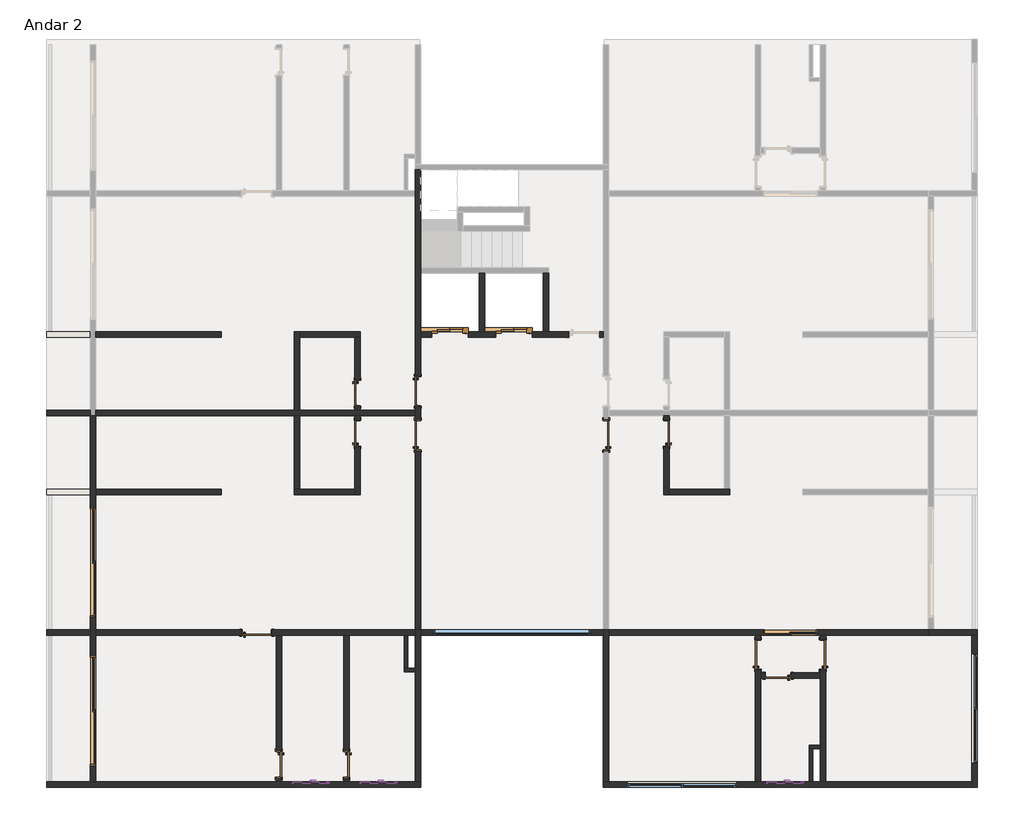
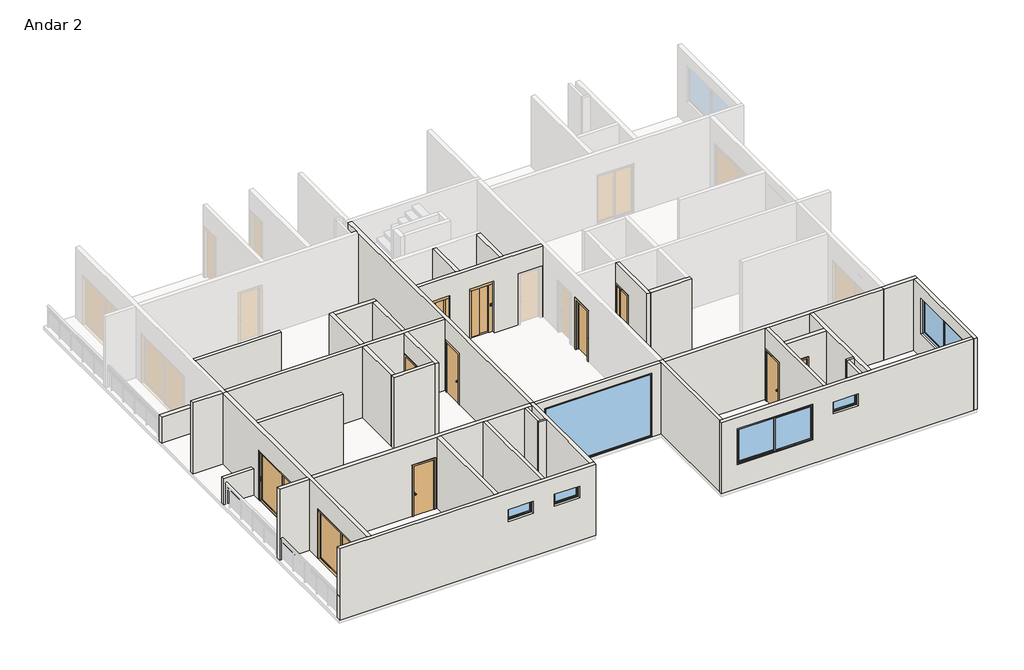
# One storey, part 1 of 3: 38 walls, 17 doors, 6 windows.
"""IFC4 building model written with IfcOpenShell, lengths in millimetres."""

from ifc_helpers import new_model, si_unit, frame, origin, place, context, project, spatial, polyline, outline, extrude, faceted_brep, transform, mapped, element, save
from components import door_ffffc2e2, door_3_00m_x_2_10m_5baaadc1, door_interior_single_flush_panel_wood_70m_89b55d44, door_interior_single_flush_panel_wood_70m_eb1ec4d9, door_interior_single_flush_panel_wood_80m_pcf_cb5077a7, door_interior_single_flush_panel_wood_80m_pcf_192ded05, p2_1_50m_x_2_10m_936728f7, window_d153a765, j1_3_00m_x_1_50m_28497eee, m_fixo_j3_4_30m_x_2_70m_9528c059

model = new_model("IFC4")

# Units and contexts
model_context = context("Model", 3, world=origin())
ifc_project = project(units=[si_unit("LENGTHUNIT", "METRE", prefix="MILLI")], contexts=[model_context])

# Site, building, storey
site = spatial("IfcSite", under=ifc_project)
building = spatial("IfcBuilding", under=site)
storey = spatial("IfcBuildingStorey", under=building, Name="Andar 2", Elevation=6150.0)

# Doors
placement = place(None, origin())
door_shape = door_ffffc2e2(model_context)
element("IfcDoor", 1, ObjectType="Porta do elevador : Porta do elevador", at=placement, inside=storey, context=model_context, shape_type="MappedRepresentation", body=[
    mapped(door_shape, transform((16900.0, 14650.0, 6150.0), x_axis=(1.0, 0.0, 0.0), y_axis=(0.0, 1.0, 0.0), z_axis=(0.0, 0.0, 1.0))),
])
element("IfcDoor", 2, ObjectType="Porta do elevador : Porta do elevador", at=placement, inside=storey, context=model_context, shape_type="MappedRepresentation", body=[
    mapped(door_shape, transform((18650.0, 14650.0, 6150.0), x_axis=(1.0, 0.0, 0.0), y_axis=(0.0, 1.0, 0.0), z_axis=(0.0, 0.0, 1.0))),
])
door_3_00m_x_2_10m_shape = door_3_00m_x_2_10m_5baaadc1(model_context)
element("IfcDoor", 3, ObjectType="Porta de Correr - 2 Folhas - ComPainel 1 : 3.00m x 2.10m", at=placement, inside=storey, context=model_context, shape_type="MappedRepresentation", body=[
    mapped(door_3_00m_x_2_10m_shape, transform((7275.0, 8395.7939229, 6150.0), x_axis=(0.0, 1.0, 0.0), y_axis=(-1.0, 0.0, 0.0), z_axis=(0.0, 0.0, 1.0))),
])
element("IfcDoor", 4, ObjectType="Porta de Correr - 2 Folhas - ComPainel 1 : 3.00m x 2.10m", at=placement, inside=storey, context=model_context, shape_type="MappedRepresentation", body=[
    mapped(door_3_00m_x_2_10m_shape, transform((7275.0, 4335.7939229, 6150.0), x_axis=(0.0, 1.0, 0.0), y_axis=(-1.0, 0.0, 0.0), z_axis=(0.0, 0.0, 1.0))),
])
door_interior_single_flush_panel_wood_70m_shape = door_interior_single_flush_panel_wood_70m_89b55d44(model_context)
element("IfcDoor", 5, ObjectType="Door-Interior-Single-Flush_Panel-Wood : .70m", at=placement, inside=storey, context=model_context, shape_type="MappedRepresentation", body=[
    mapped(door_interior_single_flush_panel_wood_70m_shape, transform((14496.825, 11949.6, 6150.0), x_axis=(0.0, 1.0, 0.0), y_axis=(-1.0, 0.0, 0.0), z_axis=(0.0, 0.0, 1.0))),
])
element("IfcDoor", 6, ObjectType="Door-Interior-Single-Flush_Panel-Wood : .70m", at=placement, inside=storey, context=model_context, shape_type="MappedRepresentation", body=[
    mapped(door_interior_single_flush_panel_wood_70m_shape, transform((14203.175, 2900.4, 6150.0), x_axis=(0.0, -1.0, 0.0), y_axis=(1.0, 0.0, 0.0), z_axis=(0.0, 0.0, 1.0))),
])
element("IfcDoor", 7, ObjectType="Door-Interior-Single-Flush_Panel-Wood : .70m", at=placement, inside=storey, context=model_context, shape_type="MappedRepresentation", body=[
    mapped(door_interior_single_flush_panel_wood_70m_shape, transform((26000.4, 5321.425, 6150.0), x_axis=(-1.0, 0.0, 0.0), y_axis=(0.0, -1.0, 0.0), z_axis=(0.0, 0.0, 1.0))),
])
element("IfcDoor", 8, ObjectType="Door-Interior-Single-Flush_Panel-Wood : .70m", at=placement, inside=storey, context=model_context, shape_type="MappedRepresentation", body=[
    mapped(door_interior_single_flush_panel_wood_70m_shape, transform((12353.175, 2900.4, 6150.0), x_axis=(0.0, -1.0, 0.0), y_axis=(1.0, 0.0, 0.0), z_axis=(0.0, 0.0, 1.0))),
])
door_interior_single_flush_panel_wood_70m_2_shape = door_interior_single_flush_panel_wood_70m_eb1ec4d9(model_context)
element("IfcDoor", 9, ObjectType="Door-Interior-Single-Flush_Panel-Wood : .70m", at=placement, inside=storey, context=model_context, shape_type="MappedRepresentation", body=[
    mapped(door_interior_single_flush_panel_wood_70m_2_shape, transform((14496.825, 13050.4, 6150.0), x_axis=(0.0, -1.0, 0.0), y_axis=(1.0, 0.0, 0.0), z_axis=(0.0, 0.0, 1.0))),
])
element("IfcDoor", 10, ObjectType="Door-Interior-Single-Flush_Panel-Wood : .70m", at=placement, inside=storey, context=model_context, shape_type="MappedRepresentation", body=[
    mapped(door_interior_single_flush_panel_wood_70m_2_shape, transform((22953.175, 11949.6, 6150.0), x_axis=(0.0, 1.0, 0.0), y_axis=(-1.0, 0.0, 0.0), z_axis=(0.0, 0.0, 1.0))),
])
door_interior_single_flush_panel_wood_80m_pcf_shape = door_interior_single_flush_panel_wood_80m_pcf_cb5077a7(model_context)
element("IfcDoor", 11, ObjectType="Door-Interior-Single-Flush_Panel-Wood : .80m", at=placement, inside=storey, context=model_context, shape_type="MappedRepresentation", body=[
    mapped(door_interior_single_flush_panel_wood_80m_pcf_shape, transform((11749.6, 6496.825, 6150.0), x_axis=(1.0, 0.0, 0.0), y_axis=(0.0, 1.0, 0.0), z_axis=(0.0, 0.0, 1.0))),
])
element("IfcDoor", 12, ObjectType="Door-Interior-Single-Flush_Panel-Wood : .80m", at=placement, inside=storey, context=model_context, shape_type="MappedRepresentation", body=[
    mapped(door_interior_single_flush_panel_wood_80m_pcf_shape, transform((27228.175, 5899.6, 6150.0), x_axis=(0.0, 1.0, 0.0), y_axis=(-1.0, 0.0, 0.0), z_axis=(0.0, 0.0, 1.0))),
])
door_interior_single_flush_panel_wood_80m_pcf_2_shape = door_interior_single_flush_panel_wood_80m_pcf_192ded05(model_context)
element("IfcDoor", 13, ObjectType="Door-Interior-Single-Flush_Panel-Wood : .80m", at=placement, inside=storey, context=model_context, shape_type="MappedRepresentation", body=[
    mapped(door_interior_single_flush_panel_wood_80m_pcf_2_shape, transform((25446.825, 5899.6, 6150.0), x_axis=(0.0, 1.0, 0.0), y_axis=(-1.0, 0.0, 0.0), z_axis=(0.0, 0.0, 1.0))),
])
element("IfcDoor", 14, ObjectType="Door-Interior-Single-Flush_Panel-Wood : .80m - PCF", at=placement, inside=storey, context=model_context, shape_type="MappedRepresentation", body=[
    mapped(door_interior_single_flush_panel_wood_80m_pcf_2_shape, transform((16146.825, 11899.6, 6150.0), x_axis=(0.0, 1.0, 0.0), y_axis=(-1.0, 0.0, 0.0), z_axis=(0.0, 0.0, 1.0))),
])
element("IfcDoor", 15, ObjectType="Door-Interior-Single-Flush_Panel-Wood : .80m - PCF", at=placement, inside=storey, context=model_context, shape_type="MappedRepresentation", body=[
    mapped(door_interior_single_flush_panel_wood_80m_pcf_shape, transform((16146.825, 13100.4, 6150.0), x_axis=(0.0, -1.0, 0.0), y_axis=(1.0, 0.0, 0.0), z_axis=(0.0, 0.0, 1.0))),
])
element("IfcDoor", 16, ObjectType="Door-Interior-Single-Flush_Panel-Wood : .80m - PCF", at=placement, inside=storey, context=model_context, shape_type="MappedRepresentation", body=[
    mapped(door_interior_single_flush_panel_wood_80m_pcf_shape, transform((21303.175, 11899.6, 6150.0), x_axis=(0.0, 1.0, 0.0), y_axis=(-1.0, 0.0, 0.0), z_axis=(0.0, 0.0, 1.0))),
])
p2_1_50m_x_2_10m_shape = p2_1_50m_x_2_10m_936728f7(model_context)
element("IfcDoor", 17, ObjectType="Porta de Correr - 2 Folhas - ComPainel 1 : P2 - 1.50m x 2.10m", at=placement, inside=storey, context=model_context, shape_type="MappedRepresentation", body=[
    mapped(p2_1_50m_x_2_10m_shape, transform((26308.2939229, 6500.0, 6150.0), x_axis=(1.0, 0.0, 0.0), y_axis=(0.0, 1.0, 0.0), z_axis=(0.0, 0.0, 1.0))),
])

# Walls
element("IfcWall", 18, ObjectType="M_Parede Normal - 10cm - Interna", at=placement, inside=storey, context=model_context, shape_type="Brep", body=[
    faceted_brep([(27150.0, 3425.0, 6150.0), (26850.0, 3425.0, 6150.0), (26850.0, 3425.0, 9150.0), (27150.0, 3425.0, 9150.0), (27150.0, 3325.0, 6150.0), (27150.0, 3325.0, 9150.0), (26950.0, 3325.0, 9150.0), (26850.0, 3325.0, 9150.0), (26850.0, 3325.0, 6150.0), (26950.0, 3325.0, 6150.0)], [[[0, 1, 2, 3]], [[4, 5, 6, 7, 8, 9]], [[1, 0, 4, 9, 8]], [[3, 2, 7, 6, 5]], [[2, 1, 8, 7]], [[0, 3, 5, 4]]]),
])
element("IfcWall", 19, ObjectType="M_Parede Normal - 10cm - Interna", at=placement, inside=storey, context=model_context, shape_type="SweptSolid", body=[
    extrude(outline(polyline([(26850.0, 2425.0), (26850.0, 3325.0), (26950.0, 3325.0), (26950.0, 2425.0), (26850.0, 2425.0)])), frame((0.0, 0.0, 6150.0), z_axis=(0.0, 0.0, 1.0), x_axis=(1.0, 0.0, 0.0)), (0.0, 0.0, 1.0), 3000.0),
])
element("IfcWall", 20, ObjectType="M_Parede Normal - 10cm - Interna", at=placement, inside=storey, context=model_context, shape_type="Brep", body=[
    faceted_brep([(16075.0, 5525.0, 6150.0), (15875.0, 5525.0, 6150.0), (15775.0, 5525.0, 6150.0), (15775.0, 5525.0, 9150.0), (15875.0, 5525.0, 9150.0), (16075.0, 5525.0, 9150.0), (16075.0, 5425.0, 6150.0), (16075.0, 5425.0, 9150.0), (15775.0, 5425.0, 9150.0), (15775.0, 5425.0, 6150.0)], [[[0, 1, 2, 3, 4, 5]], [[6, 7, 8, 9]], [[2, 1, 0, 6, 9]], [[5, 4, 3, 8, 7]], [[3, 2, 9, 8]], [[0, 5, 7, 6]]]),
])
element("IfcWall", 21, ObjectType="M_Parede Normal - 10cm - Interna", at=placement, inside=storey, context=model_context, shape_type="SweptSolid", body=[
    extrude(outline(polyline([(15875.0, 6425.0), (15875.0, 5525.0), (15775.0, 5525.0), (15775.0, 6425.0), (15875.0, 6425.0)])), frame((0.0, 0.0, 6150.0), z_axis=(0.0, 0.0, 1.0), x_axis=(1.0, 0.0, 0.0)), (0.0, 0.0, 1.0), 3000.0),
])
element("IfcWall", 22, ObjectType="M_Parede Normal - 15cm - Externa", at=placement, inside=storey, context=model_context, shape_type="SweptSolid", body=[
    extrude(outline(polyline([(7200.0, 14575.0), (6000.0, 14575.0), (6000.0, 14725.0), (7200.0, 14725.0), (7200.0, 14575.0)])), frame((0.0, 0.0, 6150.0), z_axis=(0.0, 0.0, 1.0), x_axis=(1.0, 0.0, 0.0)), (0.0, 0.0, 1.0), 1100.0),
])
element("IfcWall", 23, ObjectType="M_Parede Normal - 15cm - Externa", at=placement, inside=storey, context=model_context, shape_type="Brep", body=[
    faceted_brep([(16225.0, 2425.0, 6150.0), (16225.0, 6425.0, 6150.0), (16225.0, 6575.0, 6150.0), (16225.0, 6575.0, 9150.0), (16225.0, 6425.0, 9150.0), (16225.0, 2425.0, 9150.0), (16075.0, 2425.0, 6150.0), (16075.0, 2425.0, 9150.0), (16075.0, 5425.0, 9150.0), (16075.0, 5525.0, 9150.0), (16075.0, 6425.0, 9150.0), (16075.0, 6575.0, 9150.0), (16075.0, 6575.0, 6150.0), (16075.0, 6425.0, 6150.0), (16075.0, 5525.0, 6150.0), (16075.0, 5425.0, 6150.0)], [[[0, 1, 2, 3, 4, 5]], [[6, 7, 8, 9, 10, 11, 12, 13, 14, 15]], [[2, 1, 0, 6, 15, 14, 13, 12]], [[5, 4, 3, 11, 10, 9, 8, 7]], [[0, 5, 7, 6]], [[3, 2, 12, 11]]]),
])
element("IfcWall", 24, ObjectType="M_Parede Normal - 15cm - Externa", at=placement, inside=storey, context=model_context, shape_type="Brep", body=[
    faceted_brep([(6000.0, 2275.0, 6150.0), (16225.0, 2275.0, 6150.0), (16225.0, 2275.0, 9150.0), (6000.0, 2275.0, 9150.0), (13725.0, 2275.0, 7950.0), (12725.0, 2275.0, 7950.0), (12725.0, 2275.0, 8450.0), (13725.0, 2275.0, 8450.0), (15575.0, 2275.0, 7950.0), (14575.0, 2275.0, 7950.0), (14575.0, 2275.0, 8450.0), (15575.0, 2275.0, 8450.0), (6000.0, 2425.0, 6150.0), (6000.0, 2425.0, 9150.0), (7200.0, 2425.0, 9150.0), (7350.0, 2425.0, 9150.0), (12275.0, 2425.0, 9150.0), (12425.0, 2425.0, 9150.0), (14125.0, 2425.0, 9150.0), (14275.0, 2425.0, 9150.0), (16075.0, 2425.0, 9150.0), (16225.0, 2425.0, 9150.0), (16225.0, 2425.0, 6150.0), (16075.0, 2425.0, 6150.0), (14275.0, 2425.0, 6150.0), (14125.0, 2425.0, 6150.0), (12425.0, 2425.0, 6150.0), (12275.0, 2425.0, 6150.0), (7350.0, 2425.0, 6150.0), (7200.0, 2425.0, 6150.0), (13725.0, 2425.0, 7950.0), (13725.0, 2425.0, 8450.0), (12725.0, 2425.0, 8450.0), (12725.0, 2425.0, 7950.0), (15575.0, 2425.0, 7950.0), (15575.0, 2425.0, 8450.0), (14575.0, 2425.0, 8450.0), (14575.0, 2425.0, 7950.0)], [[[0, 1, 2, 3], [4, 5, 6, 7], [8, 9, 10, 11]], [[12, 13, 14, 15, 16, 17, 18, 19, 20, 21, 22, 23, 24, 25, 26, 27, 28, 29], [30, 31, 32, 33], [34, 35, 36, 37]], [[1, 0, 12, 29, 28, 27, 26, 25, 24, 23, 22]], [[3, 2, 21, 20, 19, 18, 17, 16, 15, 14, 13]], [[0, 3, 13, 12]], [[2, 1, 22, 21]], [[31, 30, 4, 7]], [[32, 31, 7, 6]], [[33, 32, 6, 5]], [[30, 33, 5, 4]], [[35, 34, 8, 11]], [[36, 35, 11, 10]], [[37, 36, 10, 9]], [[34, 37, 9, 8]]]),
])
element("IfcWall", 25, ObjectType="M_Parede Normal - 15cm - Externa", at=placement, inside=storey, context=model_context, shape_type="Brep", body=[
    faceted_brep([(7200.0, 2425.0, 9150.0), (7200.0, 6425.0, 9150.0), (7200.0, 6575.0, 9150.0), (7200.0, 12425.0, 9150.0), (7200.0, 12425.0, 6150.0), (7200.0, 9925.0, 6150.0), (7200.0, 9925.0, 8250.0), (7200.0, 6925.0, 8250.0), (7200.0, 6925.0, 6150.0), (7200.0, 6575.0, 6150.0), (7200.0, 6425.0, 6150.0), (7200.0, 5865.0, 6150.0), (7200.0, 5865.0, 8250.0), (7200.0, 2865.0, 8250.0), (7200.0, 2865.0, 6150.0), (7200.0, 2425.0, 6150.0), (7350.0, 12425.0, 9150.0), (7350.0, 6575.0, 9150.0), (7350.0, 6425.0, 9150.0), (7350.0, 2425.0, 9150.0), (7350.0, 2425.0, 6150.0), (7350.0, 2865.0, 6150.0), (7350.0, 2865.0, 8250.0), (7350.0, 5865.0, 8250.0), (7350.0, 5865.0, 6150.0), (7350.0, 6425.0, 6150.0), (7350.0, 6575.0, 6150.0), (7350.0, 6925.0, 6150.0), (7350.0, 6925.0, 8250.0), (7350.0, 9925.0, 8250.0), (7350.0, 9925.0, 6150.0), (7350.0, 12425.0, 6150.0)], [[[0, 1, 2, 3, 4, 5, 6, 7, 8, 9, 10, 11, 12, 13, 14, 15]], [[16, 17, 18, 19, 20, 21, 22, 23, 24, 25, 26, 27, 28, 29, 30, 31]], [[20, 15, 14, 21]], [[24, 11, 10, 9, 8, 27, 26, 25]], [[4, 31, 30, 5]], [[3, 2, 1, 0, 19, 18, 17, 16]], [[0, 15, 20, 19]], [[4, 3, 16, 31]], [[23, 12, 11, 24]], [[12, 23, 22, 13]], [[13, 22, 21, 14]], [[29, 6, 5, 30]], [[6, 29, 28, 7]], [[7, 28, 27, 8]]]),
])
element("IfcWall", 26, ObjectType="M_Parede Normal - 15cm - Externa", at=placement, inside=storey, context=model_context, shape_type="Brep", body=[
    faceted_brep([(21375.0, 2425.0, 6150.0), (21375.0, 6425.0, 6150.0), (21375.0, 6575.0, 6150.0), (21375.0, 6575.0, 9150.0), (21375.0, 6425.0, 9150.0), (21375.0, 2425.0, 9150.0), (21225.0, 2425.0, 6150.0), (21225.0, 2425.0, 9150.0), (21225.0, 6425.0, 9150.0), (21225.0, 6575.0, 9150.0), (21225.0, 6575.0, 6150.0), (21225.0, 6425.0, 6150.0)], [[[0, 1, 2, 3, 4, 5]], [[6, 7, 8, 9, 10, 11]], [[2, 1, 0, 6, 11, 10]], [[5, 4, 3, 9, 8, 7]], [[0, 5, 7, 6]], [[3, 2, 10, 9]]]),
])
element("IfcWall", 27, ObjectType="M_Parede Normal - 15cm - Externa", at=placement, inside=storey, context=model_context, shape_type="Brep", body=[
    faceted_brep([(31300.0, 6425.0, 6150.0), (31300.0, 2425.0, 6150.0), (31300.0, 2275.0, 6150.0), (31300.0, 2275.0, 9150.0), (31300.0, 2425.0, 9150.0), (31300.0, 6425.0, 9150.0), (31300.0, 5925.0, 7150.0), (31300.0, 5925.0, 8650.0), (31300.0, 2925.0, 8650.0), (31300.0, 2925.0, 7150.0), (31450.0, 6425.0, 6150.0), (31450.0, 6425.0, 9150.0), (31450.0, 2275.0, 9150.0), (31450.0, 2275.0, 6150.0), (31450.0, 5925.0, 7150.0), (31450.0, 2925.0, 7150.0), (31450.0, 2925.0, 8650.0), (31450.0, 5925.0, 8650.0)], [[[0, 1, 2, 3, 4, 5], [6, 7, 8, 9]], [[10, 11, 12, 13], [14, 15, 16, 17]], [[2, 1, 0, 10, 13]], [[5, 4, 3, 12, 11]], [[0, 5, 11, 10]], [[3, 2, 13, 12]], [[7, 6, 14, 17]], [[8, 7, 17, 16]], [[9, 8, 16, 15]], [[6, 9, 15, 14]]]),
])
element("IfcWall", 28, ObjectType="M_Parede Normal - 15cm - Externa", at=placement, inside=storey, context=model_context, shape_type="SweptSolid", body=[
    extrude(outline(polyline([(6000.0, 6575.0), (7200.0, 6575.0), (7200.0, 6425.0), (6000.0, 6425.0), (6000.0, 6575.0)])), frame((0.0, 0.0, 6150.0), z_axis=(0.0, 0.0, 1.0), x_axis=(1.0, 0.0, 0.0)), (0.0, 0.0, 1.0), 3000.0),
])
element("IfcWall", 29, ObjectType="M_Parede Normal - 15cm - Externa", at=placement, inside=storey, context=model_context, shape_type="Brep", body=[
    faceted_brep([(30100.0, 6425.0, 6150.0), (31300.0, 6425.0, 6150.0), (31450.0, 6425.0, 6150.0), (31450.0, 6425.0, 9150.0), (31300.0, 6425.0, 9150.0), (30100.0, 6425.0, 9150.0), (30100.0, 6575.0, 6150.0), (30100.0, 6575.0, 9150.0), (30250.0, 6575.0, 9150.0), (31450.0, 6575.0, 9150.0), (31450.0, 6575.0, 6150.0), (30250.0, 6575.0, 6150.0)], [[[0, 1, 2, 3, 4, 5]], [[6, 7, 8, 9, 10, 11]], [[2, 1, 0, 6, 11, 10]], [[5, 4, 3, 9, 8, 7]], [[3, 2, 10, 9]], [[0, 5, 7, 6]]]),
])
element("IfcWall", 30, ObjectType="M_Parede Normal - 15cm - Externa", at=placement, inside=storey, context=model_context, shape_type="SweptSolid", body=[
    extrude(outline(polyline([(7200.0, 10275.0), (6000.0, 10275.0), (6000.0, 10425.0), (7200.0, 10425.0), (7200.0, 10275.0)])), frame((0.0, 0.0, 6150.0), z_axis=(0.0, 0.0, 1.0), x_axis=(1.0, 0.0, 0.0)), (0.0, 0.0, 1.0), 1100.0),
])
element("IfcWall", 31, ObjectType="M_Parede Normal - 15cm - Externa", at=placement, inside=storey, context=model_context, shape_type="SweptSolid", body=[
    extrude(outline(polyline([(9150.0, 21225.0), (9150.0, 16225.0), (6150.0, 16225.0), (6150.0, 16575.0), (8850.0, 16575.0), (8850.0, 20875.0), (6150.0, 20875.0), (6150.0, 21225.0), (9150.0, 21225.0)])), frame((0.0, 6425.0, 0.0), z_axis=(0.0, 1.0, 0.0), x_axis=(0.0, 0.0, 1.0)), (0.0, 0.0, 1.0), 150.0),
])
element("IfcWall", 32, ObjectType="M_Parede Normal - 15cm - Externa", at=placement, inside=storey, context=model_context, shape_type="Brep", body=[
    faceted_brep([(21225.0, 2275.0, 6150.0), (31300.0, 2275.0, 6150.0), (31300.0, 2275.0, 9150.0), (21225.0, 2275.0, 9150.0), (24875.0, 2275.0, 7150.0), (21875.0, 2275.0, 7150.0), (21875.0, 2275.0, 8650.0), (24875.0, 2275.0, 8650.0), (26687.5, 2275.0, 7950.0), (25687.5, 2275.0, 7950.0), (25687.5, 2275.0, 8450.0), (26687.5, 2275.0, 8450.0), (21225.0, 2425.0, 6150.0), (21225.0, 2425.0, 9150.0), (21375.0, 2425.0, 9150.0), (25375.0, 2425.0, 9150.0), (25525.0, 2425.0, 9150.0), (26850.0, 2425.0, 9150.0), (26950.0, 2425.0, 9150.0), (27150.0, 2425.0, 9150.0), (27300.0, 2425.0, 9150.0), (31300.0, 2425.0, 9150.0), (31300.0, 2425.0, 6150.0), (27300.0, 2425.0, 6150.0), (27150.0, 2425.0, 6150.0), (26950.0, 2425.0, 6150.0), (26850.0, 2425.0, 6150.0), (25525.0, 2425.0, 6150.0), (25375.0, 2425.0, 6150.0), (21375.0, 2425.0, 6150.0), (24875.0, 2425.0, 7150.0), (24875.0, 2425.0, 8650.0), (21875.0, 2425.0, 8650.0), (21875.0, 2425.0, 7150.0), (26687.5, 2425.0, 7950.0), (26687.5, 2425.0, 8450.0), (25687.5, 2425.0, 8450.0), (25687.5, 2425.0, 7950.0)], [[[0, 1, 2, 3], [4, 5, 6, 7], [8, 9, 10, 11]], [[12, 13, 14, 15, 16, 17, 18, 19, 20, 21, 22, 23, 24, 25, 26, 27, 28, 29], [30, 31, 32, 33], [34, 35, 36, 37]], [[1, 0, 12, 29, 28, 27, 26, 25, 24, 23, 22]], [[3, 2, 21, 20, 19, 18, 17, 16, 15, 14, 13]], [[2, 1, 22, 21]], [[0, 3, 13, 12]], [[31, 30, 4, 7]], [[32, 31, 7, 6]], [[33, 32, 6, 5]], [[30, 33, 5, 4]], [[35, 34, 8, 11]], [[36, 35, 11, 10]], [[37, 36, 10, 9]], [[34, 37, 9, 8]]]),
])
element("IfcWall", 33, ObjectType="M_Parede Normal - 15cm - Externa", at=placement, inside=storey, context=model_context, shape_type="SweptSolid", body=[
    extrude(outline(polyline([(6000.0, 12575.0), (7200.0, 12575.0), (7200.0, 12425.0), (6000.0, 12425.0), (6000.0, 12575.0)])), frame((0.0, 0.0, 6150.0), z_axis=(0.0, 0.0, 1.0), x_axis=(1.0, 0.0, 0.0)), (0.0, 0.0, 1.0), 3000.0),
])
element("IfcWall", 34, ObjectType="M_Parede Normal - 15cm - Interna", at=placement, inside=storey, context=model_context, shape_type="SweptSolid", body=[
    extrude(outline(polyline([(12575.0, 9150.0), (14575.0, 9150.0), (14575.0, 6150.0), (13425.8, 6150.0), (13425.8, 8275.4), (12675.0, 8275.4), (12675.0, 6150.0), (12575.0, 6150.0), (12575.0, 9150.0)])), frame((14425.0, 0.0, 0.0), z_axis=(1.0, 0.0, 0.0), x_axis=(0.0, 1.0, 0.0)), (0.0, 0.0, 1.0), 150.0),
])
element("IfcWall", 35, ObjectType="M_Parede Normal - 15cm - Interna", at=placement, inside=storey, context=model_context, shape_type="Brep", body=[
    faceted_brep([(14575.0, 14725.0, 6150.0), (12925.0, 14725.0, 6150.0), (12925.0, 14725.0, 9150.0), (14575.0, 14725.0, 9150.0), (14575.0, 14575.0, 6150.0), (14575.0, 14575.0, 9150.0), (14425.0, 14575.0, 9150.0), (12925.0, 14575.0, 9150.0), (12925.0, 14575.0, 6150.0), (14425.0, 14575.0, 6150.0)], [[[0, 1, 2, 3]], [[4, 5, 6, 7, 8, 9]], [[1, 0, 4, 9, 8]], [[3, 2, 7, 6, 5]], [[0, 3, 5, 4]], [[2, 1, 8, 7]]]),
])
element("IfcWall", 36, ObjectType="M_Parede Normal - 15cm - Interna", at=placement, inside=storey, context=model_context, shape_type="Brep", body=[
    faceted_brep([(12775.0, 14725.0, 6150.0), (12775.0, 12575.0, 6150.0), (12775.0, 12575.0, 9150.0), (12775.0, 14725.0, 9150.0), (12925.0, 14725.0, 6150.0), (12925.0, 14725.0, 9150.0), (12925.0, 14575.0, 9150.0), (12925.0, 12575.0, 9150.0), (12925.0, 12575.0, 6150.0), (12925.0, 14575.0, 6150.0)], [[[0, 1, 2, 3]], [[4, 5, 6, 7, 8, 9]], [[1, 0, 4, 9, 8]], [[3, 2, 7, 6, 5]], [[0, 3, 5, 4]], [[2, 1, 8, 7]]]),
])
element("IfcWall", 37, ObjectType="M_Parede Normal - 15cm - Interna", at=placement, inside=storey, context=model_context, shape_type="SweptSolid", body=[
    extrude(outline(polyline([(10775.0, 14575.0), (7350.0, 14575.0), (7350.0, 14725.0), (10775.0, 14725.0), (10775.0, 14575.0)])), frame((0.0, 0.0, 6150.0), z_axis=(0.0, 0.0, 1.0), x_axis=(1.0, 0.0, 0.0)), (0.0, 0.0, 1.0), 3000.0),
])
element("IfcWall", 38, ObjectType="M_Parede Normal - 15cm - Interna", at=placement, inside=storey, context=model_context, shape_type="Brep", body=[
    faceted_brep([(19275.0, 14575.0, 8350.0), (19275.0, 14575.0, 6150.0), (20274.2, 14575.0, 6150.0), (20274.2, 14575.0, 8275.4), (21125.0, 14575.0, 8275.4), (21125.0, 14575.0, 6150.0), (21225.0, 14575.0, 6150.0), (21225.0, 14575.0, 9150.0), (16225.0, 14575.0, 9150.0), (16225.0, 14575.0, 6150.0), (16525.0, 14575.0, 6150.0), (16525.0, 14575.0, 8350.0), (17525.0, 14575.0, 8350.0), (17525.0, 14575.0, 6150.0), (18275.0, 14575.0, 6150.0), (18275.0, 14575.0, 8350.0), (20274.2, 14725.0, 6150.0), (19725.0, 14725.0, 6150.0), (19575.0, 14725.0, 6150.0), (19275.0, 14725.0, 6150.0), (19275.0, 14725.0, 8350.0), (18275.0, 14725.0, 8350.0), (18275.0, 14725.0, 6150.0), (17975.0, 14725.0, 6150.0), (17825.0, 14725.0, 6150.0), (17525.0, 14725.0, 6150.0), (17525.0, 14725.0, 8350.0), (16525.0, 14725.0, 8350.0), (16525.0, 14725.0, 6150.0), (16225.0, 14725.0, 6150.0), (16225.0, 14725.0, 9150.0), (17825.0, 14725.0, 9150.0), (17975.0, 14725.0, 9150.0), (19575.0, 14725.0, 9150.0), (19725.0, 14725.0, 9150.0), (21225.0, 14725.0, 9150.0), (21225.0, 14725.0, 6150.0), (21125.0, 14725.0, 6150.0), (21125.0, 14725.0, 8275.4), (20274.2, 14725.0, 8275.4)], [[[0, 1, 2, 3, 4, 5, 6, 7, 8, 9, 10, 11, 12, 13, 14, 15]], [[16, 17, 18, 19, 20, 21, 22, 23, 24, 25, 26, 27, 28, 29, 30, 31, 32, 33, 34, 35, 36, 37, 38, 39]], [[36, 6, 5, 37]], [[10, 9, 29, 28]], [[14, 13, 25, 24, 23, 22]], [[2, 1, 19, 18, 17, 16]], [[8, 7, 35, 34, 33, 32, 31, 30]], [[4, 38, 37, 5]], [[38, 4, 3, 39]], [[39, 3, 2, 16]], [[7, 6, 36, 35]], [[9, 8, 30, 29]], [[28, 27, 11, 10]], [[26, 25, 13, 12]], [[27, 26, 12, 11]], [[22, 21, 15, 14]], [[20, 19, 1, 0]], [[21, 20, 0, 15]]]),
])
element("IfcWall", 39, ObjectType="M_Parede Normal - 15cm - Interna", at=placement, inside=storey, context=model_context, shape_type="SweptSolid", body=[
    extrude(outline(polyline([(19575.0, 14725.0), (19575.0, 16325.0), (19725.0, 16325.0), (19725.0, 14725.0), (19575.0, 14725.0)])), frame((0.0, 0.0, 6150.0), z_axis=(0.0, 0.0, 1.0), x_axis=(1.0, 0.0, 0.0)), (0.0, 0.0, 1.0), 3000.0),
])
element("IfcWall", 40, ObjectType="M_Parede Normal - 15cm - Interna", at=placement, inside=storey, context=model_context, shape_type="SweptSolid", body=[
    extrude(outline(polyline([(17825.0, 14725.0), (17825.0, 16325.0), (17975.0, 16325.0), (17975.0, 14725.0), (17825.0, 14725.0)])), frame((0.0, 0.0, 6150.0), z_axis=(0.0, 0.0, 1.0), x_axis=(1.0, 0.0, 0.0)), (0.0, 0.0, 1.0), 3000.0),
])
element("IfcWall", 41, ObjectType="M_Parede Normal - 15cm - Interna", at=placement, inside=storey, context=model_context, shape_type="Brep", body=[
    faceted_brep([(16075.0, 12575.0, 6150.0), (14575.0, 12575.0, 6150.0), (14425.0, 12575.0, 6150.0), (12925.0, 12575.0, 6150.0), (12775.0, 12575.0, 6150.0), (7350.0, 12575.0, 6150.0), (7350.0, 12575.0, 9150.0), (12775.0, 12575.0, 9150.0), (12925.0, 12575.0, 9150.0), (14425.0, 12575.0, 9150.0), (14575.0, 12575.0, 9150.0), (16075.0, 12575.0, 9150.0), (16075.0, 12425.0, 6150.0), (16075.0, 12425.0, 9150.0), (14575.0, 12425.0, 9150.0), (14425.0, 12425.0, 9150.0), (12925.0, 12425.0, 9150.0), (12775.0, 12425.0, 9150.0), (7350.0, 12425.0, 9150.0), (7350.0, 12425.0, 6150.0), (12775.0, 12425.0, 6150.0), (12925.0, 12425.0, 6150.0), (14425.0, 12425.0, 6150.0), (14575.0, 12425.0, 6150.0)], [[[0, 1, 2, 3, 4, 5, 6, 7, 8, 9, 10, 11]], [[12, 13, 14, 15, 16, 17, 18, 19, 20, 21, 22, 23]], [[5, 4, 3, 2, 1, 0, 12, 23, 22, 21, 20, 19]], [[11, 10, 9, 8, 7, 6, 18, 17, 16, 15, 14, 13]], [[0, 11, 13, 12]], [[6, 5, 19, 18]]]),
])
element("IfcWall", 42, ObjectType="M_Parede Normal - 15cm - Interna", at=placement, inside=storey, context=model_context, shape_type="Brep", body=[
    faceted_brep([(16075.0, 6575.0, 9150.0), (16075.0, 12425.0, 9150.0), (16075.0, 12575.0, 9150.0), (16075.0, 18425.0, 9150.0), (16075.0, 18575.0, 9150.0), (16075.0, 19149.2009656, 9150.0), (16075.0, 19149.2009656, 6150.0), (16075.0, 18575.0, 6150.0), (16075.0, 18425.0, 6150.0), (16075.0, 13525.8, 6150.0), (16075.0, 13525.8, 8275.4), (16075.0, 12675.0, 8275.4), (16075.0, 12675.0, 6150.0), (16075.0, 12575.0, 6150.0), (16075.0, 12425.0, 6150.0), (16075.0, 12325.0, 6150.0), (16075.0, 12325.0, 8275.4), (16075.0, 11474.2, 8275.4), (16075.0, 11474.2, 6150.0), (16075.0, 6575.0, 6150.0), (16225.0, 19149.2009656, 9150.0), (16225.0, 16475.0, 9150.0), (16225.0, 16325.0, 9150.0), (16225.0, 14725.0, 9150.0), (16225.0, 14575.0, 9150.0), (16225.0, 6575.0, 9150.0), (16225.0, 6575.0, 6150.0), (16225.0, 11474.2, 6150.0), (16225.0, 11474.2, 8275.4), (16225.0, 12325.0, 8275.4), (16225.0, 12325.0, 6150.0), (16225.0, 12675.0, 6150.0), (16225.0, 12675.0, 8275.4), (16225.0, 13525.8, 8275.4), (16225.0, 13525.8, 6150.0), (16225.0, 14575.0, 6150.0), (16225.0, 14725.0, 6150.0), (16225.0, 16325.0, 6150.0), (16225.0, 16475.0, 6150.0), (16225.0, 19149.2009656, 6150.0)], [[[0, 1, 2, 3, 4, 5, 6, 7, 8, 9, 10, 11, 12, 13, 14, 15, 16, 17, 18, 19]], [[20, 21, 22, 23, 24, 25, 26, 27, 28, 29, 30, 31, 32, 33, 34, 35, 36, 37, 38, 39]], [[12, 31, 30, 15, 14, 13]], [[9, 8, 7, 6, 39, 38, 37, 36, 35, 34]], [[26, 19, 18, 27]], [[5, 4, 3, 2, 1, 0, 25, 24, 23, 22, 21, 20]], [[11, 32, 31, 12]], [[32, 11, 10, 33]], [[33, 10, 9, 34]], [[6, 5, 20, 39]], [[0, 19, 26, 25]], [[29, 16, 15, 30]], [[16, 29, 28, 17]], [[17, 28, 27, 18]]]),
])
element("IfcWall", 43, ObjectType="M_Parede Normal - 15cm - Interna", at=placement, inside=storey, context=model_context, shape_type="Brep", body=[
    faceted_brep([(7350.0, 6575.0, 9150.0), (16075.0, 6575.0, 9150.0), (16075.0, 6575.0, 6150.0), (12175.0, 6575.0, 6150.0), (12175.0, 6575.0, 8275.4), (11324.2, 6575.0, 8275.4), (11324.2, 6575.0, 6150.0), (7350.0, 6575.0, 6150.0), (16075.0, 6425.0, 9150.0), (15875.0, 6425.0, 9150.0), (15775.0, 6425.0, 9150.0), (14275.0, 6425.0, 9150.0), (14125.0, 6425.0, 9150.0), (12425.0, 6425.0, 9150.0), (12275.0, 6425.0, 9150.0), (7350.0, 6425.0, 9150.0), (7350.0, 6425.0, 6150.0), (11324.2, 6425.0, 6150.0), (11324.2, 6425.0, 8275.4), (12175.0, 6425.0, 8275.4), (12175.0, 6425.0, 6150.0), (12275.0, 6425.0, 6150.0), (12425.0, 6425.0, 6150.0), (14125.0, 6425.0, 6150.0), (14275.0, 6425.0, 6150.0), (15775.0, 6425.0, 6150.0), (15875.0, 6425.0, 6150.0), (16075.0, 6425.0, 6150.0)], [[[0, 1, 2, 3, 4, 5, 6, 7]], [[8, 9, 10, 11, 12, 13, 14, 15, 16, 17, 18, 19, 20, 21, 22, 23, 24, 25, 26, 27]], [[2, 27, 26, 25, 24, 23, 22, 21, 20, 3]], [[16, 7, 6, 17]], [[1, 0, 15, 14, 13, 12, 11, 10, 9, 8]], [[19, 4, 3, 20]], [[4, 19, 18, 5]], [[5, 18, 17, 6]], [[2, 1, 8, 27]], [[0, 7, 16, 15]]]),
])
element("IfcWall", 44, ObjectType="M_Parede Normal - 15cm - Interna", at=placement, inside=storey, context=model_context, shape_type="SweptSolid", body=[
    extrude(outline(polyline([(2425.0, 9150.0), (6425.0, 9150.0), (6425.0, 6150.0), (3275.8, 6150.0), (3275.8, 8275.4), (2525.0, 8275.4), (2525.0, 6150.0), (2425.0, 6150.0), (2425.0, 9150.0)])), frame((14125.0, 0.0, 0.0), z_axis=(1.0, 0.0, 0.0), x_axis=(0.0, 1.0, 0.0)), (0.0, 0.0, 1.0), 150.0),
])
element("IfcWall", 45, ObjectType="M_Parede Normal - 15cm - Interna", at=placement, inside=storey, context=model_context, shape_type="Brep", body=[
    faceted_brep([(14425.0, 10275.0, 9150.0), (14425.0, 10425.0, 9150.0), (14425.0, 12425.0, 9150.0), (14425.0, 12425.0, 6150.0), (14425.0, 12325.0, 6150.0), (14425.0, 12325.0, 8275.4), (14425.0, 11574.2, 8275.4), (14425.0, 11574.2, 6150.0), (14425.0, 10425.0, 6150.0), (14425.0, 10275.0, 6150.0), (14575.0, 12425.0, 9150.0), (14575.0, 10275.0, 9150.0), (14575.0, 10275.0, 6150.0), (14575.0, 11574.2, 6150.0), (14575.0, 11574.2, 8275.4), (14575.0, 12325.0, 8275.4), (14575.0, 12325.0, 6150.0), (14575.0, 12425.0, 6150.0)], [[[0, 1, 2, 3, 4, 5, 6, 7, 8, 9]], [[10, 11, 12, 13, 14, 15, 16, 17]], [[12, 9, 8, 7, 13]], [[3, 17, 16, 4]], [[2, 1, 0, 11, 10]], [[15, 5, 4, 16]], [[5, 15, 14, 6]], [[6, 14, 13, 7]], [[0, 9, 12, 11]], [[3, 2, 10, 17]]]),
])
element("IfcWall", 46, ObjectType="M_Parede Normal - 15cm - Interna", at=placement, inside=storey, context=model_context, shape_type="Brep", body=[
    faceted_brep([(14425.0, 10425.0, 6150.0), (12925.0, 10425.0, 6150.0), (12775.0, 10425.0, 6150.0), (12775.0, 10425.0, 9150.0), (12925.0, 10425.0, 9150.0), (14425.0, 10425.0, 9150.0), (14425.0, 10275.0, 6150.0), (14425.0, 10275.0, 9150.0), (12775.0, 10275.0, 9150.0), (12775.0, 10275.0, 6150.0)], [[[0, 1, 2, 3, 4, 5]], [[6, 7, 8, 9]], [[2, 1, 0, 6, 9]], [[5, 4, 3, 8, 7]], [[3, 2, 9, 8]], [[0, 5, 7, 6]]]),
])
element("IfcWall", 47, ObjectType="M_Parede Normal - 15cm - Interna", at=placement, inside=storey, context=model_context, shape_type="SweptSolid", body=[
    extrude(outline(polyline([(12925.0, 12425.0), (12925.0, 10425.0), (12775.0, 10425.0), (12775.0, 12425.0), (12925.0, 12425.0)])), frame((0.0, 0.0, 6150.0), z_axis=(0.0, 0.0, 1.0), x_axis=(1.0, 0.0, 0.0)), (0.0, 0.0, 1.0), 3000.0),
])
element("IfcWall", 48, ObjectType="M_Parede Normal - 15cm - Interna", at=placement, inside=storey, context=model_context, shape_type="SweptSolid", body=[
    extrude(outline(polyline([(10775.0, 10275.0), (7350.0, 10275.0), (7350.0, 10425.0), (10775.0, 10425.0), (10775.0, 10275.0)])), frame((0.0, 0.0, 6150.0), z_axis=(0.0, 0.0, 1.0), x_axis=(1.0, 0.0, 0.0)), (0.0, 0.0, 1.0), 3000.0),
])
element("IfcWall", 49, ObjectType="M_Parede Normal - 15cm - Interna", at=placement, inside=storey, context=model_context, shape_type="Brep", body=[
    faceted_brep([(30100.0, 6425.0, 9150.0), (27300.0, 6425.0, 9150.0), (27150.0, 6425.0, 9150.0), (25525.0, 6425.0, 9150.0), (25375.0, 6425.0, 9150.0), (21375.0, 6425.0, 9150.0), (21375.0, 6425.0, 6150.0), (25375.0, 6425.0, 6150.0), (25525.0, 6425.0, 6150.0), (25587.5, 6425.0, 6150.0), (25587.5, 6425.0, 8250.0), (27087.5, 6425.0, 8250.0), (27087.5, 6425.0, 6150.0), (27150.0, 6425.0, 6150.0), (27300.0, 6425.0, 6150.0), (30100.0, 6425.0, 6150.0), (21375.0, 6575.0, 9150.0), (30100.0, 6575.0, 9150.0), (30100.0, 6575.0, 6150.0), (27087.5, 6575.0, 6150.0), (27087.5, 6575.0, 8250.0), (25587.5, 6575.0, 8250.0), (25587.5, 6575.0, 6150.0), (21375.0, 6575.0, 6150.0)], [[[0, 1, 2, 3, 4, 5, 6, 7, 8, 9, 10, 11, 12, 13, 14, 15]], [[16, 17, 18, 19, 20, 21, 22, 23]], [[6, 23, 22, 9, 8, 7]], [[18, 15, 14, 13, 12, 19]], [[5, 4, 3, 2, 1, 0, 17, 16]], [[11, 20, 19, 12]], [[20, 11, 10, 21]], [[21, 10, 9, 22]], [[6, 5, 16, 23]], [[0, 15, 18, 17]]]),
])
element("IfcWall", 50, ObjectType="M_Parede Normal - 15cm - Interna", at=placement, inside=storey, context=model_context, shape_type="Brep", body=[
    faceted_brep([(22875.0, 10275.0, 9150.0), (22875.0, 12425.0, 9150.0), (22875.0, 12425.0, 6150.0), (22875.0, 12325.0, 6150.0), (22875.0, 12325.0, 8275.4), (22875.0, 11574.2, 8275.4), (22875.0, 11574.2, 6150.0), (22875.0, 10275.0, 6150.0), (23025.0, 12425.0, 9150.0), (23025.0, 10425.0, 9150.0), (23025.0, 10275.0, 9150.0), (23025.0, 10275.0, 6150.0), (23025.0, 10425.0, 6150.0), (23025.0, 11574.2, 6150.0), (23025.0, 11574.2, 8275.4), (23025.0, 12325.0, 8275.4), (23025.0, 12325.0, 6150.0), (23025.0, 12425.0, 6150.0)], [[[0, 1, 2, 3, 4, 5, 6, 7]], [[8, 9, 10, 11, 12, 13, 14, 15, 16, 17]], [[11, 7, 6, 13, 12]], [[2, 17, 16, 3]], [[1, 0, 10, 9, 8]], [[15, 4, 3, 16]], [[4, 15, 14, 5]], [[5, 14, 13, 6]], [[0, 7, 11, 10]], [[2, 1, 8, 17]]]),
])
element("IfcWall", 51, ObjectType="M_Parede Normal - 15cm - Interna", at=placement, inside=storey, context=model_context, shape_type="Brep", body=[
    faceted_brep([(23025.0, 10275.0, 6150.0), (24675.0, 10275.0, 6150.0), (24675.0, 10275.0, 9150.0), (23025.0, 10275.0, 9150.0), (23025.0, 10425.0, 6150.0), (23025.0, 10425.0, 9150.0), (24525.0, 10425.0, 9150.0), (24675.0, 10425.0, 9150.0), (24675.0, 10425.0, 6150.0), (24525.0, 10425.0, 6150.0)], [[[0, 1, 2, 3]], [[4, 5, 6, 7, 8, 9]], [[1, 0, 4, 9, 8]], [[3, 2, 7, 6, 5]], [[2, 1, 8, 7]], [[0, 3, 5, 4]]]),
])
element("IfcWall", 52, ObjectType="M_Parede Normal - 15cm - Interna", at=placement, inside=storey, context=model_context, shape_type="Brep", body=[
    faceted_brep([(27150.0, 2425.0, 9150.0), (27150.0, 3325.0, 9150.0), (27150.0, 3425.0, 9150.0), (27150.0, 5249.6, 9150.0), (27150.0, 5399.6, 9150.0), (27150.0, 6425.0, 9150.0), (27150.0, 6425.0, 6150.0), (27150.0, 6325.0, 6150.0), (27150.0, 6325.0, 8275.4), (27150.0, 5474.2, 8275.4), (27150.0, 5474.2, 6150.0), (27150.0, 5399.6, 6150.0), (27150.0, 5249.6, 6150.0), (27150.0, 3425.0, 6150.0), (27150.0, 3325.0, 6150.0), (27150.0, 2425.0, 6150.0), (27300.0, 6425.0, 9150.0), (27300.0, 2425.0, 9150.0), (27300.0, 2425.0, 6150.0), (27300.0, 5474.2, 6150.0), (27300.0, 5474.2, 8275.4), (27300.0, 6325.0, 8275.4), (27300.0, 6325.0, 6150.0), (27300.0, 6425.0, 6150.0)], [[[0, 1, 2, 3, 4, 5, 6, 7, 8, 9, 10, 11, 12, 13, 14, 15]], [[16, 17, 18, 19, 20, 21, 22, 23]], [[6, 23, 22, 7]], [[18, 15, 14, 13, 12, 11, 10, 19]], [[5, 4, 3, 2, 1, 0, 17, 16]], [[21, 8, 7, 22]], [[8, 21, 20, 9]], [[9, 20, 19, 10]], [[0, 15, 18, 17]], [[6, 5, 16, 23]]]),
])
element("IfcWall", 53, ObjectType="M_Parede Normal - 15cm - Interna", at=placement, inside=storey, context=model_context, shape_type="Brep", body=[
    faceted_brep([(25375.0, 2425.0, 9150.0), (25375.0, 6425.0, 9150.0), (25375.0, 6425.0, 6150.0), (25375.0, 6325.0, 6150.0), (25375.0, 6325.0, 8275.4), (25375.0, 5474.2, 8275.4), (25375.0, 5474.2, 6150.0), (25375.0, 2425.0, 6150.0), (25525.0, 6425.0, 9150.0), (25525.0, 5399.6, 9150.0), (25525.0, 5249.6, 9150.0), (25525.0, 2425.0, 9150.0), (25525.0, 2425.0, 6150.0), (25525.0, 5249.6, 6150.0), (25525.0, 5399.6, 6150.0), (25525.0, 5474.2, 6150.0), (25525.0, 5474.2, 8275.4), (25525.0, 6325.0, 8275.4), (25525.0, 6325.0, 6150.0), (25525.0, 6425.0, 6150.0)], [[[0, 1, 2, 3, 4, 5, 6, 7]], [[8, 9, 10, 11, 12, 13, 14, 15, 16, 17, 18, 19]], [[2, 19, 18, 3]], [[12, 7, 6, 15, 14, 13]], [[1, 0, 11, 10, 9, 8]], [[17, 4, 3, 18]], [[4, 17, 16, 5]], [[5, 16, 15, 6]], [[0, 7, 12, 11]], [[2, 1, 8, 19]]]),
])
element("IfcWall", 54, ObjectType="M_Parede Normal - 15cm - Interna", at=placement, inside=storey, context=model_context, shape_type="SweptSolid", body=[
    extrude(outline(polyline([(9150.0, 27150.0), (9150.0, 25525.0), (6150.0, 25525.0), (6150.0, 25625.0), (8275.4, 25625.0), (8275.4, 26375.8), (6150.0, 26375.8), (6150.0, 27150.0), (9150.0, 27150.0)])), frame((0.0, 5249.6, 0.0), z_axis=(0.0, 1.0, 0.0), x_axis=(0.0, 0.0, 1.0)), (0.0, 0.0, 1.0), 150.0),
])
element("IfcWall", 55, ObjectType="M_Parede Normal - 15cm - Interna", at=placement, inside=storey, context=model_context, shape_type="SweptSolid", body=[
    extrude(outline(polyline([(2425.0, 9150.0), (6425.0, 9150.0), (6425.0, 6150.0), (3275.8, 6150.0), (3275.8, 8275.4), (2525.0, 8275.4), (2525.0, 6150.0), (2425.0, 6150.0), (2425.0, 9150.0)])), frame((12275.0, 0.0, 0.0), z_axis=(1.0, 0.0, 0.0), x_axis=(0.0, 1.0, 0.0)), (0.0, 0.0, 1.0), 150.0),
])

# Windows
window_shape = window_d153a765(model_context)
element("IfcWindow", 56, ObjectType="Janela Basculante - Vidro - Pivotante : Janela maxim-ar - 1 Painel", at=placement, inside=storey, context=model_context, shape_type="MappedRepresentation", body=[
    mapped(window_shape, transform((15075.0, 2350.0, 7300.0), x_axis=(-1.0, 0.0, 0.0), y_axis=(0.0, -1.0, 0.0), z_axis=(0.0, 0.0, 1.0))),
])
element("IfcWindow", 57, ObjectType="Janela Basculante - Vidro - Pivotante : Janela maxim-ar - 1 Painel", at=placement, inside=storey, context=model_context, shape_type="MappedRepresentation", body=[
    mapped(window_shape, transform((26187.5, 2350.0, 7300.0), x_axis=(-1.0, 0.0, 0.0), y_axis=(0.0, -1.0, 0.0), z_axis=(0.0, 0.0, 1.0))),
])
element("IfcWindow", 58, ObjectType="Janela Basculante - Vidro - Pivotante : Janela maxim-ar - 1 Painel", at=placement, inside=storey, context=model_context, shape_type="MappedRepresentation", body=[
    mapped(window_shape, transform((13225.0, 2350.0, 7300.0), x_axis=(-1.0, 0.0, 0.0), y_axis=(0.0, -1.0, 0.0), z_axis=(0.0, 0.0, 1.0))),
])
j1_3_00m_x_1_50m_shape = j1_3_00m_x_1_50m_28497eee(model_context)
element("IfcWindow", 59, ObjectType="Janela de correr - 2 Painéis : J1 - 3.00m x 1.50m", at=placement, inside=storey, context=model_context, shape_type="MappedRepresentation", body=[
    mapped(j1_3_00m_x_1_50m_shape, transform((31375.0, 4425.0, 6500.0), x_axis=(0.0, -1.0, 0.0), y_axis=(1.0, 0.0, 0.0), z_axis=(0.0, 0.0, 1.0))),
])
element("IfcWindow", 60, ObjectType="Janela de correr - 2 Painéis : J1 - 3.00m x 1.50m", at=placement, inside=storey, context=model_context, shape_type="MappedRepresentation", body=[
    mapped(j1_3_00m_x_1_50m_shape, transform((23375.0, 2350.0, 6500.0), x_axis=(-1.0, 0.0, 0.0), y_axis=(0.0, -1.0, 0.0), z_axis=(0.0, 0.0, 1.0))),
])
m_fixo_j3_4_30m_x_2_70m_shape = m_fixo_j3_4_30m_x_2_70m_9528c059(model_context)
element("IfcWindow", 61, ObjectType="M_Fixo : J3 - 4.30m x 2.70m", at=placement, inside=storey, context=model_context, shape_type="MappedRepresentation", body=[
    mapped(m_fixo_j3_4_30m_x_2_70m_shape, transform((18725.0, 6513.0, 5235.0), x_axis=(-1.0, 0.0, 0.0), y_axis=(0.0, -1.0, 0.0), z_axis=(0.0, 0.0, 1.0))),
])

save(model, "model.ifc")
